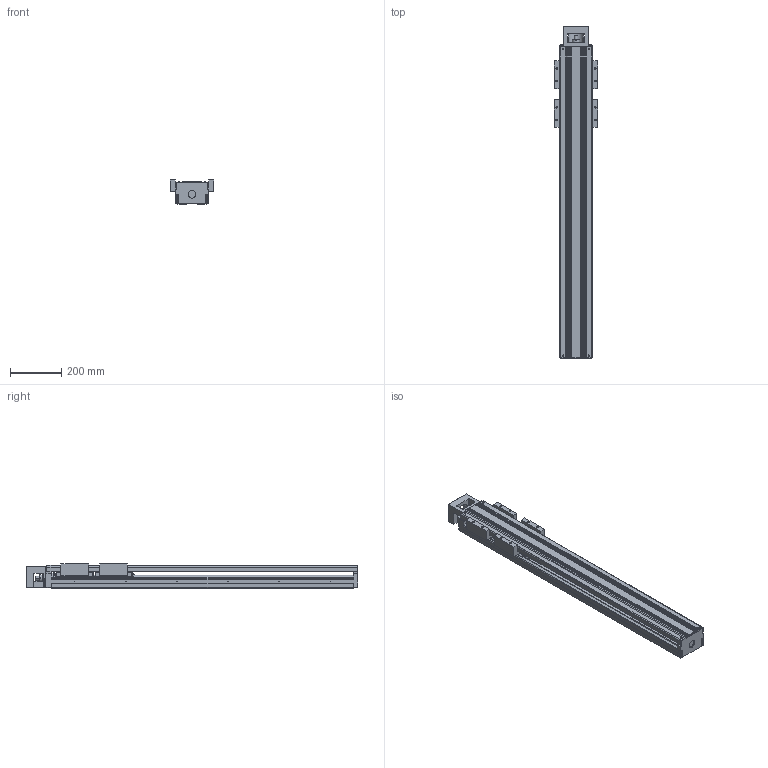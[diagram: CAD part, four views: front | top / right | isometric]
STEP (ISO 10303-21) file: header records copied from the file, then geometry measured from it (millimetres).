
FILE_DESCRIPTION(('no description'),'unknown implementation level');
FILE_NAME('KK13025P1180A2F0C00_FILE_10.stp',' ',('HIWIN GmbH'),('CADClick - KiM GmbH - www.kimweb.de'),'unknown preprocess','ACIS','unknown authorization');
FILE_SCHEMA(('automotive_design'));
Length unit declared in the file: millimetre
Products named in the file (3): KK13025P1180A2F0C00_FILE_1; KK130_FILE; KK13025P1180A2F0C00_FILE
Bounding box: 170 x 1298 x 94 mm (x, y, z)
Volume: 6999008.9 mm3; surface area: 1322007 mm2
Topology: 3 solids, 17 shells, 1276 faces, 3222 edges, 2076 vertices
Faces by surface type: plane 802, cylinder 410, torus 52, cone 8, sphere 4
Entity records: 75294 total; most frequent: DIRECTION 6800, CARTESIAN_POINT 6789, STYLED_ITEM 6573, PRESENTATION_STYLE_ASSIGNMENT 6573, COLOUR_RGB 6573, ORIENTED_EDGE 6436, EDGE_CURVE 3218, CURVE_STYLE 3218
